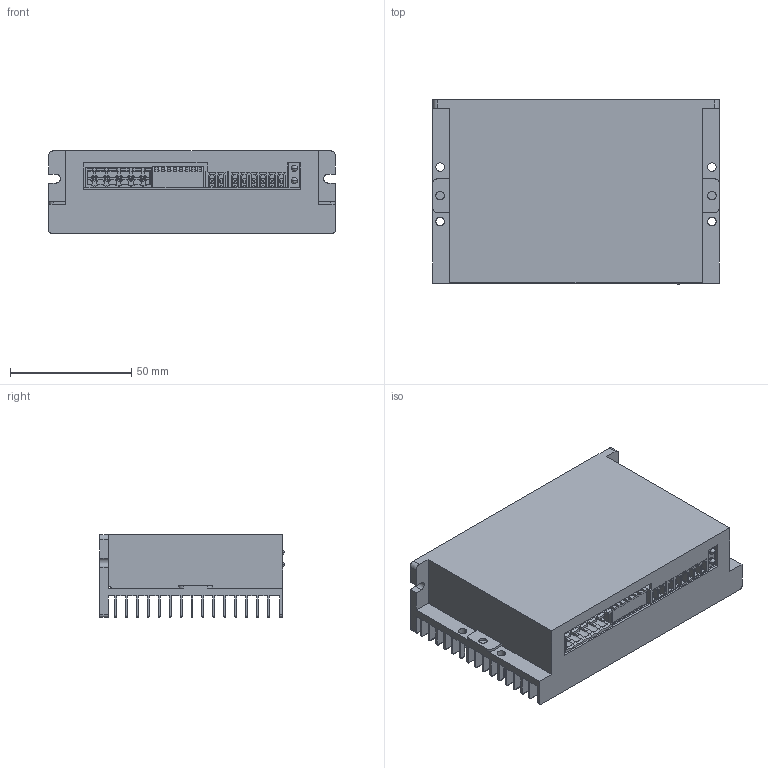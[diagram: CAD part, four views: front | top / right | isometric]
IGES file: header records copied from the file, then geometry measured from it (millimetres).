
Start section:  PTC IGES file: 3dm580s_asm.igs
Global section: file name: 3dm580s_asm.igs; native system: Pro/ENGINEER by Parametric Technology Corporation; preprocessor: 2008090; author: sunjun; organization: Unknown; date: 20180604.095327; units: millimetre
Bounding box: 118 x 76 x 34 mm (x, y, z)
Volume: 86008.8 mm3; surface area: 102679.9 mm2
Topology: 1 solids, 1 shells, 1349 faces, 3613 edges, 2332 vertices
Faces by surface type: bspline 1194, revolution 155
